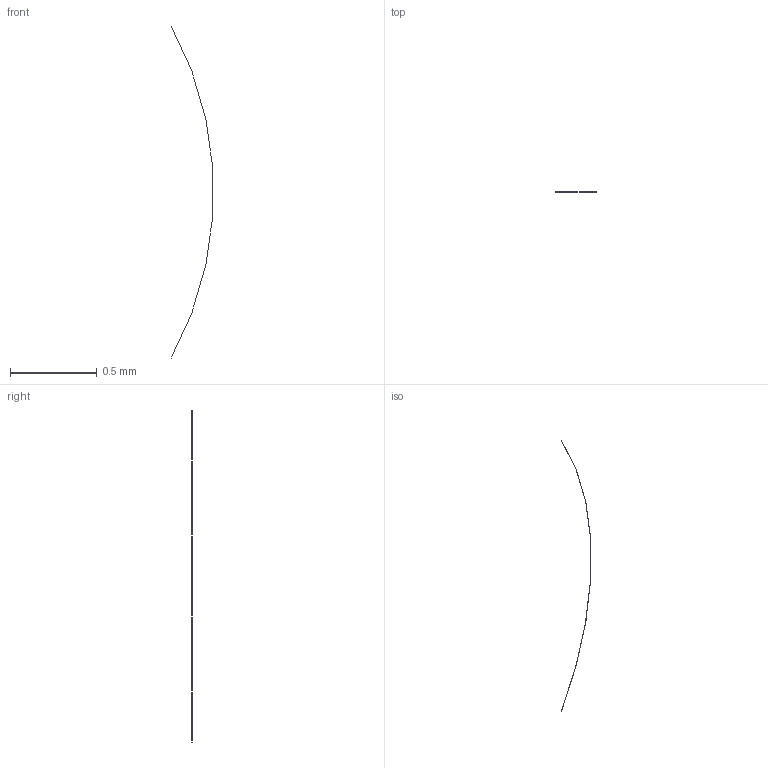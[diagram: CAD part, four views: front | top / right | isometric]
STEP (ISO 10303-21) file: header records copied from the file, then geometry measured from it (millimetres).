
FILE_DESCRIPTION(('BRL-CAD AP214 sub-tolerance torus seam fixture'),'2;1');
FILE_NAME('ap214_sub_tolerance_torus_seam.stp','2026-07-21T00:00:00',('BRL-CAD'),('BRL-CAD'),'','','');
FILE_SCHEMA(('AUTOMOTIVE_DESIGN { 1 0 10303 214 3 1 1 1 }'));
Length unit declared in the file: millimetre
Products named in the file (1): sub_tolerance_torus_seam
Bounding box: 0.24 x 0 x 1.92 mm (x, y, z)
Surface area: 0 mm2 (no closed solid volume)
Topology: 0 solids, 1 shells, 1 faces, 4 edges, 4 vertices
Faces by surface type: torus 1
Entity records: 54 total; most frequent: CARTESIAN_POINT 9, DIRECTION 6, AXIS2_PLACEMENT_3D 5, VERTEX_POINT 4, CIRCLE 4, EDGE_CURVE 4, ORIENTED_EDGE 4, EDGE_LOOP 1
